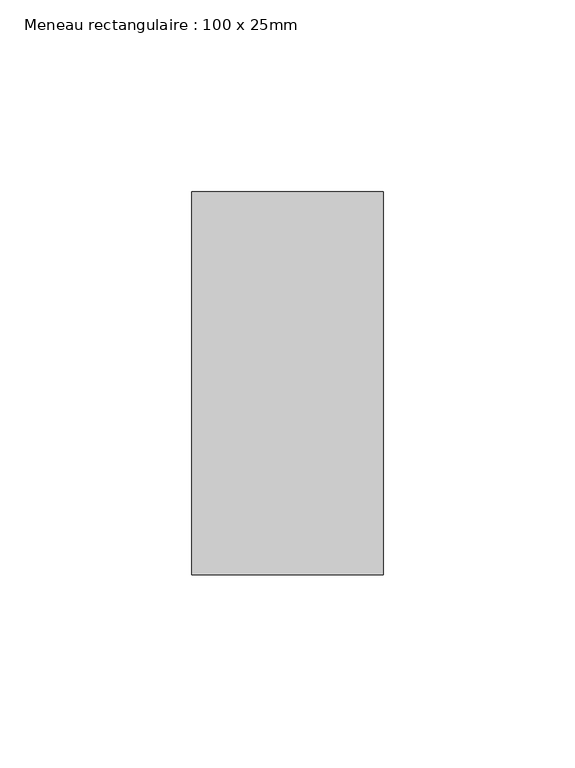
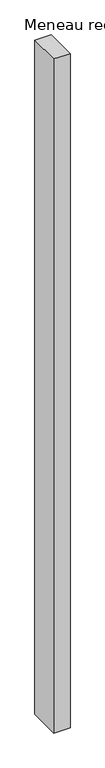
"""IFC4 building model written with IfcOpenShell, lengths in millimetres: member geometry, Meneau rectangulaire : 100 x 25mm."""

import ifcopenshell
import ifcopenshell.guid

model = None  # the IFC model being written
_history = None  # IfcOwnerHistory: only IFC2X3 demands one
_inside = {}  # id of a spatial element -> (the spatial element, [elements in it])
_under = {}  # id of a project, library or spatial element -> (it, [spatial elements below it])
_declared = {}  # id of a project -> (the project, [libraries it declares])
_typed = {}  # id of a type object -> (the type object, [elements of that type])
_made_of = {}  # id of a material, layer set ... -> (it, [elements and type objects made of it])


def new_model(schema):
    """Start an empty IFC model of exactly this schema.

    Asked for "IFC4X3", IfcOpenShell would pick the latest addendum, in which some entities
    have other attributes; the version numbers below select the first issue.
    IFC2X3 requires an IfcOwnerHistory on every rooted entity: one is made here for all.
    """
    global model, _history
    if schema == "IFC4X3":
        model = ifcopenshell.file(schema_version=(4, 3, 0, 0))
    else:
        model = ifcopenshell.file(schema=schema)
    _inside.clear()
    _under.clear()
    _declared.clear()
    _typed.clear()
    _made_of.clear()
    _history = None
    if model.schema == "IFC2X3":
        org = make("IfcOrganization", Name="unknown")
        user = make(
            "IfcPersonAndOrganization",
            ThePerson=make("IfcPerson", FamilyName="unknown"),
            TheOrganization=org,
        )
        app = make(
            "IfcApplication",
            ApplicationDeveloper=org,
            Version="unknown",
            ApplicationFullName="unknown",
            ApplicationIdentifier="unknown",
        )
        _history = make(
            "IfcOwnerHistory",
            OwningUser=user,
            OwningApplication=app,
            ChangeAction="ADDED",
            CreationDate=0,
        )
    return model


def make(cls, **values):
    """One entity of the class cls with the attributes given. An attribute that is None is left unset."""
    return model.create_entity(
        cls, **{name: value for name, value in values.items() if value is not None}
    )


def rooted(cls, **values):
    """An entity with a GlobalId (a new one), such as an element, a storey or a relation."""
    return make(cls, GlobalId=ifcopenshell.guid.new(), OwnerHistory=_history, **values)


def si_unit(unit_type, name, prefix=None):
    """IfcSIUnit, for example si_unit("LENGTHUNIT", "METRE", prefix="MILLI")."""
    return make("IfcSIUnit", UnitType=unit_type, Prefix=prefix, Name=name)


def assignment(units):
    """IfcUnitAssignment: the units of a project."""
    return None if units is None else make("IfcUnitAssignment", Units=units)


def point(xyz):
    """IfcCartesianPoint."""
    return None if xyz is None else make("IfcCartesianPoint", Coordinates=xyz)


def direction(xyz):
    """IfcDirection."""
    return None if xyz is None else make("IfcDirection", DirectionRatios=xyz)


def frame(location, z_axis=None, x_axis=None):
    """IfcAxis2Placement3D, a coordinate frame: its origin and axes. An axis left out is left unset."""
    return make(
        "IfcAxis2Placement3D",
        Location=point(location),
        Axis=direction(z_axis),
        RefDirection=direction(x_axis),
    )


def origin():
    """The frame at (0, 0, 0) with its axes left unset."""
    return frame((0.0, 0.0, 0.0))


def place(relative_to, where):
    """IfcLocalPlacement: puts the frame where relative to a parent placement (None: the world)."""
    return make(
        "IfcLocalPlacement", PlacementRelTo=relative_to, RelativePlacement=where
    )


def context(
    kind, dimensions, precision=None, world=None, true_north=None, identifier=None
):
    """IfcGeometricRepresentationContext, for example the 3D "Model" context."""
    return make(
        "IfcGeometricRepresentationContext",
        ContextIdentifier=identifier,
        ContextType=kind,
        CoordinateSpaceDimension=dimensions,
        Precision=precision,
        WorldCoordinateSystem=world,
        TrueNorth=true_north,
    )


def project(units=None, contexts=None):
    """IfcProject with its units and contexts."""
    return rooted(
        "IfcProject",
        Name="project",
        RepresentationContexts=contexts,
        UnitsInContext=assignment(units),
    )


def spatial(cls, under=None, at=None, **own):
    """A site, building, storey or space (cls), placed at a placement, below another one or the project."""
    s = rooted(cls, ObjectPlacement=at, **own)
    if under is not None:
        _under.setdefault(under.id(), (under, []))[1].append(s)
    return s


def polyline(points):
    """IfcPolyline through the points."""
    return make("IfcPolyline", Points=[point(p) for p in points])


def outline(outer, holes=None, kind="AREA"):
    """IfcArbitraryClosedProfileDef: a profile drawn as a closed curve; with holes, ...WithVoids."""
    if holes is None:
        return make("IfcArbitraryClosedProfileDef", ProfileType=kind, OuterCurve=outer)
    return make(
        "IfcArbitraryProfileDefWithVoids",
        ProfileType=kind,
        OuterCurve=outer,
        InnerCurves=holes,
    )


def extrude(swept, where, along, depth):
    """IfcExtrudedAreaSolid: the profile swept, set in the frame where, extruded along a direction by depth."""
    return make(
        "IfcExtrudedAreaSolid",
        SweptArea=swept,
        Position=where,
        ExtrudedDirection=direction(along),
        Depth=depth,
    )


def shape(context_of_items, identifier, shape_type, items):
    """IfcShapeRepresentation: the items that make up one representation, for example the "Body"."""
    return make(
        "IfcShapeRepresentation",
        ContextOfItems=context_of_items,
        RepresentationIdentifier=identifier,
        RepresentationType=shape_type,
        Items=items,
    )


def source(mapping_origin, context_of_items, identifier, shape_type, items):
    """IfcRepresentationMap: a shape defined once, which mapped items show again and again."""
    return make(
        "IfcRepresentationMap",
        MappingOrigin=mapping_origin,
        MappedRepresentation=shape(context_of_items, identifier, shape_type, items),
    )


def transform(
    local_origin,
    x_axis=None,
    y_axis=None,
    z_axis=None,
    scale=None,
    scale2=None,
    scale3=None,
    uniform=True,
):
    """IfcCartesianTransformationOperator3D, or its non-uniform kind. x_axis, y_axis, z_axis: its Axis1, 2, 3."""
    if uniform:
        return make(
            "IfcCartesianTransformationOperator3D",
            Axis1=direction(x_axis),
            Axis2=direction(y_axis),
            LocalOrigin=point(local_origin),
            Scale=scale,
            Axis3=direction(z_axis),
        )
    return make(
        "IfcCartesianTransformationOperator3DnonUniform",
        Axis1=direction(x_axis),
        Axis2=direction(y_axis),
        LocalOrigin=point(local_origin),
        Scale=scale,
        Axis3=direction(z_axis),
        Scale2=scale2,
        Scale3=scale3,
    )


def mapped(mapping_source, mapping_target):
    """IfcMappedItem: shows the shape of a source again, moved by a transform."""
    return make(
        "IfcMappedItem", MappingSource=mapping_source, MappingTarget=mapping_target
    )


def made_of(thing, what):
    """Note that an element or type object is made of a material, layer set ...; save() writes the relation."""
    if what is not None:
        _made_of.setdefault(what.id(), (what, []))[1].append(thing)
    return thing


def element(
    cls,
    number,
    at=None,
    inside=None,
    cuts=None,
    type_object=None,
    material=None,
    context=None,
    identifier="Body",
    shape_type=None,
    held_by="IfcProductDefinitionShape",
    body=None,
    shapes=None,
    **own,
):
    """One element of the class cls, such as IfcWall. Its Tag is "e" and its number.

    at: its placement. inside: the storey or other place that contains it. cuts: it is an
    opening in that element (IfcRelVoidsElement). A single representation is given by context,
    identifier, shape_type and body (its items); several are given by shapes. held_by: the class
    of the entity that holds the representations. save() writes the other relations.
    """
    e = rooted(cls, Tag="e%d" % number, ObjectPlacement=at, **own)
    if body is not None:
        shapes = [shape(context, identifier, shape_type, body)]
    if shapes is not None:
        e.Representation = make(held_by, Representations=shapes)
    if inside is not None:
        _inside.setdefault(inside.id(), (inside, []))[1].append(e)
    if cuts is not None:
        rooted(
            "IfcRelVoidsElement", RelatingBuildingElement=cuts, RelatedOpeningElement=e
        )
    if type_object is not None:
        _typed.setdefault(type_object.id(), (type_object, []))[1].append(e)
    return made_of(e, material)


def aggregate(whole, parts):
    """IfcRelAggregates: a whole, such as a stair, and the parts it consists of."""
    return rooted("IfcRelAggregates", RelatingObject=whole, RelatedObjects=parts)


def save(model, path):
    """Write the relations noted so far, then the file.

    IfcRelAggregates (storeys below a building ...), IfcRelContainedInSpatialStructure (elements
    in a storey), IfcRelDefinesByType, IfcRelAssociatesMaterial and IfcRelDeclares: one each for
    every whole, place, type object, material and project.
    """
    for whole, parts in _under.values():
        aggregate(whole, parts)
    for where, things in _inside.values():
        rooted(
            "IfcRelContainedInSpatialStructure",
            RelatedElements=things,
            RelatingStructure=where,
        )
    for kind, things in _typed.values():
        rooted("IfcRelDefinesByType", RelatedObjects=things, RelatingType=kind)
    for what, things in _made_of.values():
        rooted("IfcRelAssociatesMaterial", RelatedObjects=things, RelatingMaterial=what)
    for by, libraries in _declared.values():
        rooted("IfcRelDeclares", RelatingContext=by, RelatedDefinitions=libraries)
    model.write(path)


def meneau_rectangulaire_100_x_25mm_4b2a7ea8(model_context):
    return source(origin(), model_context, "Body", "SweptSolid", [
        extrude(outline(polyline([(0.0, 50.0), (0.0, -50.0), (-50.0, -50.0), (-50.0, 50.0), (0.0, 50.0)])), frame((0.0, 0.0, -2187.915043), z_axis=(0.0, 0.0, 1.0), x_axis=(1.0, 0.0, 0.0)), (0.0, 0.0, 1.0), 2187.915043),
    ])


if __name__ == "__main__":
    model = new_model("IFC4")
    model_context = context("Model", 3, world=origin())
    ifc_project = project(units=[si_unit("LENGTHUNIT", "METRE", prefix="MILLI")], contexts=[model_context])
    site = spatial("IfcSite", under=ifc_project)
    building = spatial("IfcBuilding", under=site)
    placement = place(None, origin())
    meneau_rectangulaire_100_x_25mm_shape = meneau_rectangulaire_100_x_25mm_4b2a7ea8(model_context)
    element("IfcMember", 1, ObjectType="Meneau rectangulaire : 100 x 25mm", at=placement, inside=building, context=model_context, shape_type="MappedRepresentation", body=[
        mapped(meneau_rectangulaire_100_x_25mm_shape, transform((0.0, 0.0, 0.0), x_axis=(1.0, 0.0, 0.0), y_axis=(0.0, 1.0, 0.0), z_axis=(0.0, 0.0, 1.0))),
    ])
    save(model, "model.ifc")
